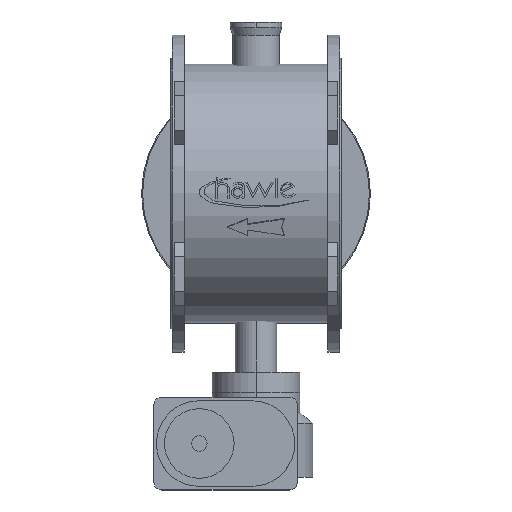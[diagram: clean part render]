
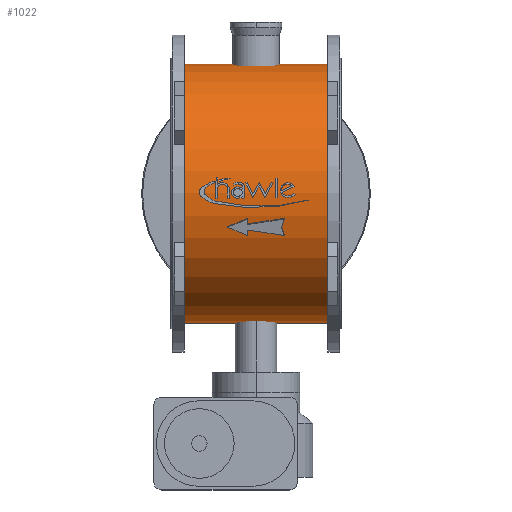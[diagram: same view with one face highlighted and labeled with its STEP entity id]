
A CAD part, top view. The second image highlights one B-rep face of the part: STEP entity #1022.
In plain terms, the highlighted cylindrical face has radius 251 mm (diameter 502 mm), a partial arc.
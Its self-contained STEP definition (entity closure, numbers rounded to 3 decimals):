
#1022=ADVANCED_FACE('',(#2184),#2185,.T.);
#2184=FACE_OUTER_BOUND('',#3955,.T.);
#2185=CYLINDRICAL_SURFACE('',#3956,251.0);
#3955=EDGE_LOOP('',(#5536,#5537,#5538,#5539));
#3956=AXIS2_PLACEMENT_3D('',#5540,#5541,#5542);
#5536=ORIENTED_EDGE('',*,*,#9206,.T.);
#5537=ORIENTED_EDGE('',*,*,#9207,.T.);
#5538=ORIENTED_EDGE('',*,*,#9208,.T.);
#5539=ORIENTED_EDGE('',*,*,#9209,.T.);
#5540=CARTESIAN_POINT('',(-304.5,0.,0.0));
#5541=DIRECTION('',(1.0,0.,0.0));
#5542=DIRECTION('',(0.,-1.0,0.0));
#9206=EDGE_CURVE('',#10762,#10763,#10764,.T.);
#9207=EDGE_CURVE('',#10763,#10765,#10766,.T.);
#9208=EDGE_CURVE('',#10765,#10767,#10768,.T.);
#9209=EDGE_CURVE('',#10767,#10762,#10769,.T.);
#10762=VERTEX_POINT('',#12939);
#10763=VERTEX_POINT('',#12940);
#10764=LINE('',#12941,#12942);
#10765=VERTEX_POINT('',#12943);
#10766=CIRCLE('',#12944,251.0);
#10767=VERTEX_POINT('',#12945);
#10768=LINE('',#12946,#12947);
#10769=CIRCLE('',#12948,251.0);
#12939=CARTESIAN_POINT('',(-304.5,-251.0,0.0));
#12940=CARTESIAN_POINT('',(-25.5,-251.0,0.0));
#12941=CARTESIAN_POINT('',(-304.5,-251.0,0.));
#12942=VECTOR('',#15475,1.0);
#12943=CARTESIAN_POINT('',(-25.5,251.0,0.));
#12944=AXIS2_PLACEMENT_3D('',#15476,#15477,#15478);
#12945=CARTESIAN_POINT('',(-304.5,251.0,0.));
#12946=CARTESIAN_POINT('',(-304.5,251.0,0.));
#12947=VECTOR('',#15479,1.0);
#12948=AXIS2_PLACEMENT_3D('',#15480,#15481,#15482);
#15475=DIRECTION('',(1.0,0.,0.0));
#15476=CARTESIAN_POINT('',(-25.5,0.,0.0));
#15477=DIRECTION('',(-1.0,0.,0.0));
#15478=DIRECTION('',(0.,-1.0,0.0));
#15479=DIRECTION('',(-1.0,0.,-0.0));
#15480=CARTESIAN_POINT('',(-304.5,0.,0.0));
#15481=DIRECTION('',(1.0,0.,0.0));
#15482=DIRECTION('',(0.,-1.0,0.0));
